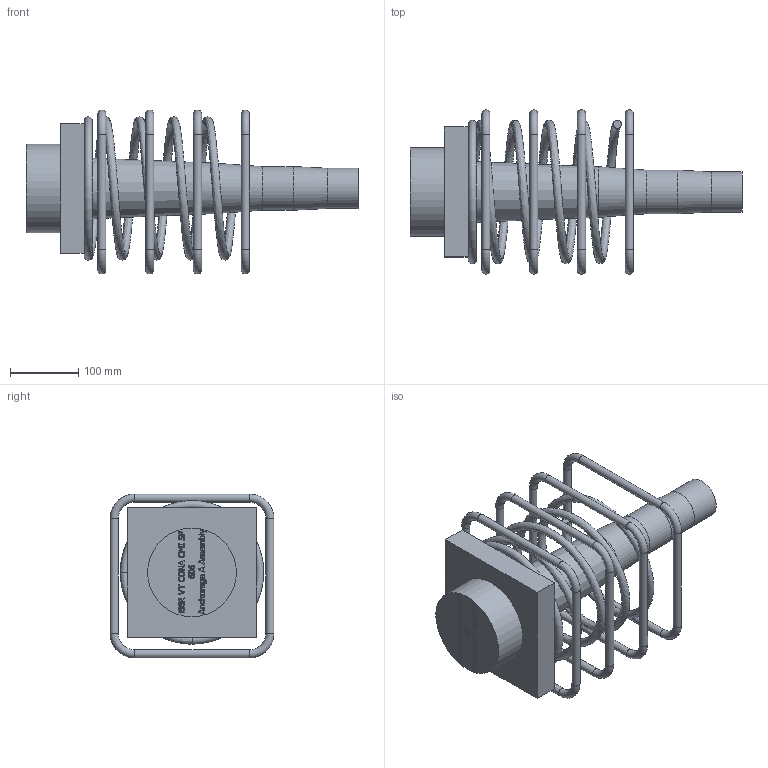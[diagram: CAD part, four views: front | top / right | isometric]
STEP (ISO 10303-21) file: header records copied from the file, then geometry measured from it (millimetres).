
FILE_DESCRIPTION(/* description */ (''),/* implementation_level */ '2;1');
FILE_NAME(/* name */ 'Z:\04 Publications\05 Give-out\BBR\6_3D_Models\BBR VT CONA CMI\BBR VT CONA CMI SP\00606\BBR VT CONA CMI SP 606_Anchorage A Assembly_CS-34,28.stp',/* time_stamp */ '2017-05-10T08:41:55+02:00',/* author */ ('IP'),/* organization */ (''),/* preprocessor_version */ 'ST-DEVELOPER v16.1',/* originating_system */ 'Autodesk Inventor 2016',/* authorisation */ '');
FILE_SCHEMA (('AUTOMOTIVE_DESIGN { 1 0 10303 214 3 1 1 }'));
Length unit declared in the file: millimetre
Products named in the file (1): BBR VT CONA CMI SP 606_Anchorage A Assembly_CS-34,28
Bounding box: 485.97 x 240 x 240 mm (x, y, z)
Volume: 4341685.8 mm3; surface area: 453898.1 mm2
Topology: 5 solids, 5 shells, 643 faces, 1717 edges, 1133 vertices
Faces by surface type: plane 303, bspline 301, torus 19, cylinder 19, cone 1
Full cylindrical faces by diameter (mm): 12 x16, 59 x1, 64 x1, 130 x1
Entity records: 23966 total; most frequent: CARTESIAN_POINT 9434, ORIENTED_EDGE 3360, DIRECTION 1806, EDGE_CURVE 1677, VERTEX_POINT 1132, LINE 1026, VECTOR 1026, EDGE_LOOP 742
